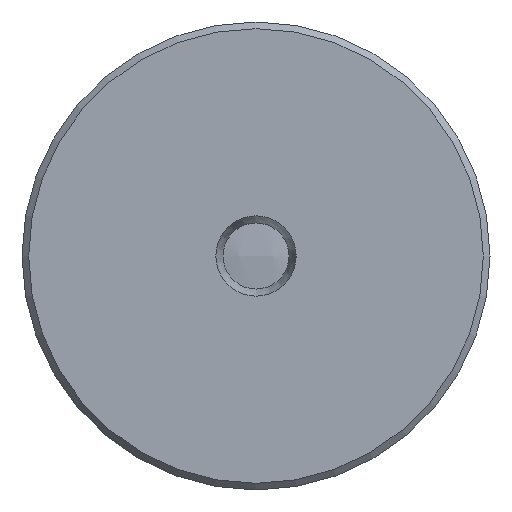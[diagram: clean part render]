
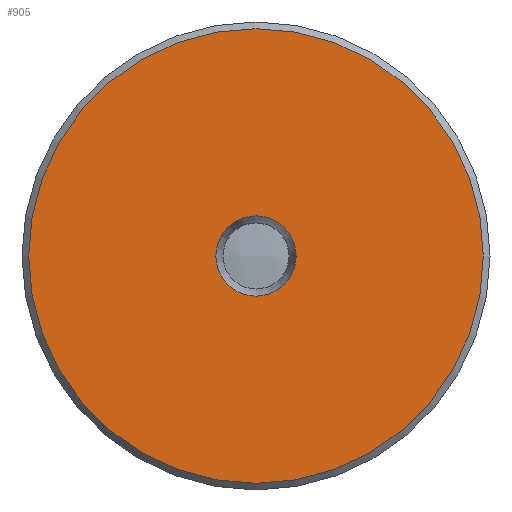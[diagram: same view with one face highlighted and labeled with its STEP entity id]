
A CAD part, left-side view. The second image highlights one B-rep face of the part: STEP entity #905.
In plain terms, the highlighted planar face has unit normal (-1, 0, 0).
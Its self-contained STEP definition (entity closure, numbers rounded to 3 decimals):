
#5 = PLANE ( 'NONE',  #132 ) ;
#132 = AXIS2_PLACEMENT_3D ( 'NONE', #334, #1088, #420 ) ;
#150 = DIRECTION ( 'NONE',  ( -1., 0., 0. ) ) ;
#189 = ORIENTED_EDGE ( 'NONE', *, *, #1303, .F. ) ;
#204 = CARTESIAN_POINT ( 'NONE',  ( -118684.517, 49160.148, 0. ) ) ;
#311 = AXIS2_PLACEMENT_3D ( 'NONE', #204, #639, #1374 ) ;
#334 = CARTESIAN_POINT ( 'NONE',  ( -118684.517, 49166.948, 0. ) ) ;
#339 = DIRECTION ( 'NONE',  ( 0., 0., 1. ) ) ;
#420 = DIRECTION ( 'NONE',  ( 0., 0., -1. ) ) ;
#421 = AXIS2_PLACEMENT_3D ( 'NONE', #454, #150, #339 ) ;
#423 = VERTEX_POINT ( 'NONE', #939 ) ;
#454 = CARTESIAN_POINT ( 'NONE',  ( -118684.517, 49160.148, 0. ) ) ;
#623 = ORIENTED_EDGE ( 'NONE', *, *, #1348, .T. ) ;
#639 = DIRECTION ( 'NONE',  ( -1., 0., 0. ) ) ;
#652 = FACE_BOUND ( 'NONE', #1333, .T. ) ;
#716 = CARTESIAN_POINT ( 'NONE',  ( -118684.517, 49160.148, 6.8 ) ) ;
#877 = FACE_OUTER_BOUND ( 'NONE', #1114, .T. ) ;
#905 = ADVANCED_FACE ( 'NONE', ( #652, #877 ), #5, .F. ) ;
#939 = CARTESIAN_POINT ( 'NONE',  ( -118684.517, 49160.148, 1.202 ) ) ;
#1009 = CIRCLE ( 'NONE', #311, 1.202 ) ;
#1088 = DIRECTION ( 'NONE',  ( 1., 0., 0. ) ) ;
#1114 = EDGE_LOOP ( 'NONE', ( #623 ) ) ;
#1234 = CIRCLE ( 'NONE', #421, 6.8 ) ;
#1268 = VERTEX_POINT ( 'NONE', #716 ) ;
#1303 = EDGE_CURVE ( 'NONE', #423, #423, #1009, .T. ) ;
#1333 = EDGE_LOOP ( 'NONE', ( #189 ) ) ;
#1348 = EDGE_CURVE ( 'NONE', #1268, #1268, #1234, .T. ) ;
#1374 = DIRECTION ( 'NONE',  ( 0., 0., 1. ) ) ;
